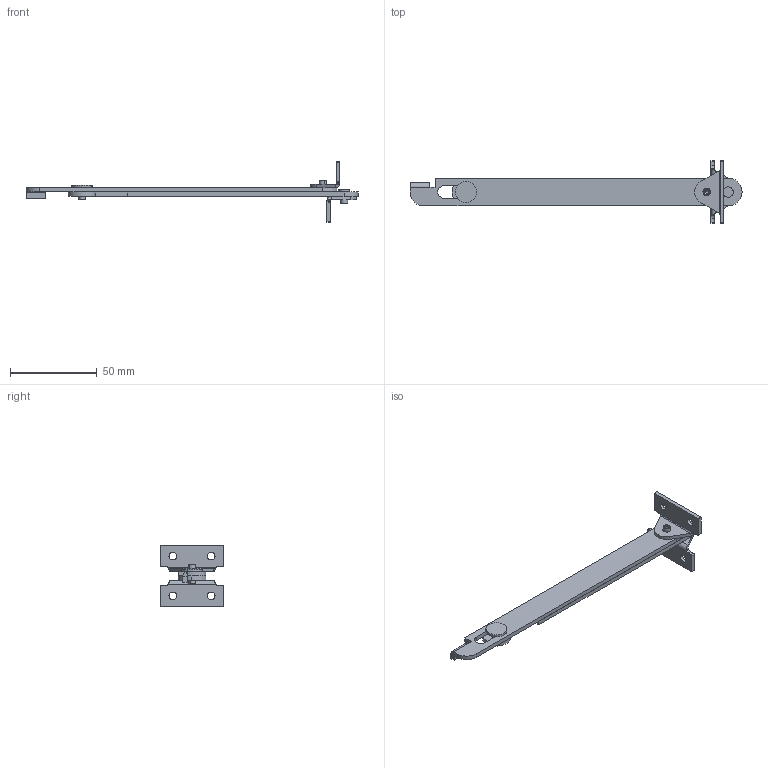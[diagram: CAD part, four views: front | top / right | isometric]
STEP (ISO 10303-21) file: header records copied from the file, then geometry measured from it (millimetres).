
FILE_DESCRIPTION (( 'STEP AP214' ), '1' );
FILE_NAME ('4.401.302.STEP', '2016-09-09T06:53:31', ( '' ), ( '' ), 'SwSTEP 2.0', 'SolidWorks 2015', '' );
FILE_SCHEMA (( 'AUTOMOTIVE_DESIGN' ));
Length unit declared in the file: millimetre
Products named in the file (6): 4.401.301.05_A; 4.401.301.04_A; 4.401.301.02_301; 4.401.301.01_302; 4.401.302; 4.401.301.03_A
Assembly tree (7 placements, depth 2):
  4.401.302
    4.401.301.01_302
    4.401.301.02_301
    4.401.301.03_A  x2
    4.401.301.04_A
    4.401.301.05_A  x2
Bounding box: 191.25 x 36.2 x 34.98 mm (x, y, z)
Volume: 16080.1 mm3; surface area: 16498.7 mm2
Topology: 7 solids, 7 shells, 138 faces, 328 edges, 206 vertices
Faces by surface type: cylinder 67, plane 54, bspline 9, cone 8
Entity records: 3066 total; most frequent: CARTESIAN_POINT 567, DIRECTION 496, ORIENTED_EDGE 448, EDGE_CURVE 224, AXIS2_PLACEMENT_3D 190, VERTEX_POINT 143, LINE 116, VECTOR 116
